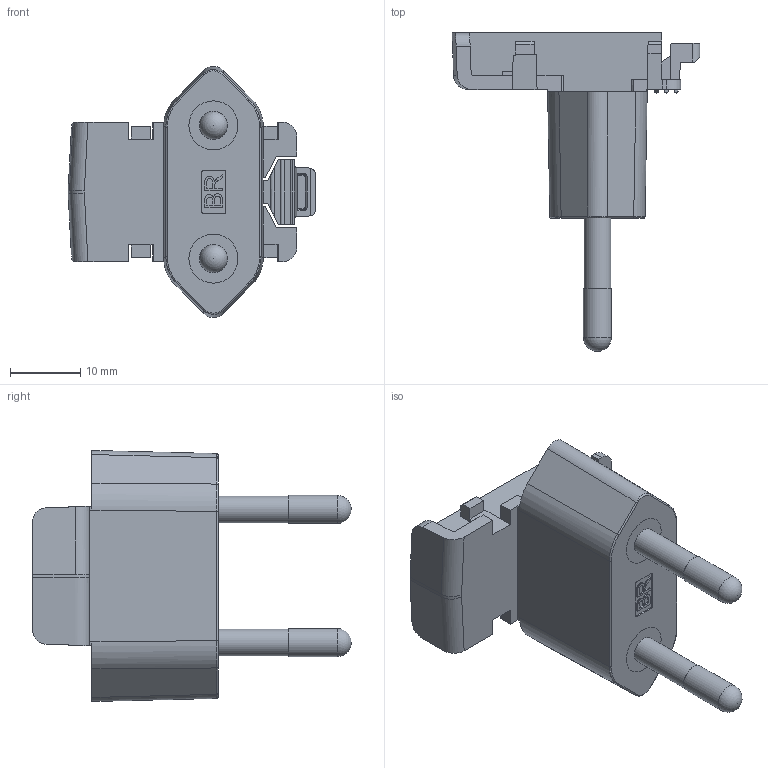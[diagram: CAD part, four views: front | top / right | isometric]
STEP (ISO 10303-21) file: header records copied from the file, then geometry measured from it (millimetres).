
FILE_DESCRIPTION(/* description */ (''),/* implementation_level */ '2;1');
FILE_NAME(/* name */ 'C:\作業區\插頭\5OE0004201H8.stp',/* time_stamp */ '2019-11-06T17:08:14+08:00',/* author */ ('user'),/* organization */ (''),/* preprocessor_version */ 'ST-DEVELOPER v16.1',/* originating_system */ 'Autodesk Inventor 2016',/* authorisation */ '');
FILE_SCHEMA (('AUTOMOTIVE_DESIGN { 1 0 10303 214 3 1 1 }'));
Length unit declared in the file: millimetre
Products named in the file (5): PRT0001_1_1_1_1; PRT0005_BRA; Brasil-PIN-20131217; ASM0004_BRA; 5OE0004201H8
Assembly tree (5 placements, depth 3):
  5OE0004201H8
    PRT0001_1_1_1_1
    ASM0004_BRA
      PRT0005_BRA
      Brasil-PIN-20131217  x2
Bounding box: 35.34 x 45.45 x 35.81 mm (x, y, z)
Volume: 8221.3 mm3; surface area: 9591.6 mm2
Topology: 4 solids, 4 shells, 721 faces, 2040 edges, 1337 vertices
Faces by surface type: plane 494, cylinder 156, bspline 35, torus 22, cone 8, sphere 6
Full cylindrical faces by diameter (mm): 2.8 x6, 3.682 x2, 3.8 x2, 4 x4, 7 x2
Entity records: 22481 total; most frequent: CARTESIAN_POINT 7322, ORIENTED_EDGE 3264, DIRECTION 2947, EDGE_CURVE 1632, LINE 1287, VECTOR 1287, VERTEX_POINT 1073, AXIS2_PLACEMENT_3D 830
